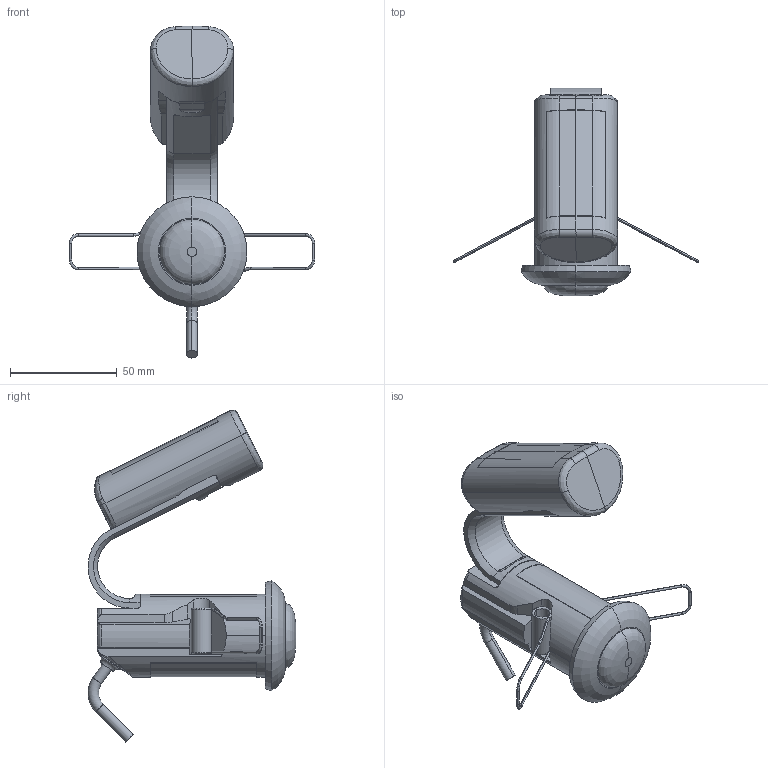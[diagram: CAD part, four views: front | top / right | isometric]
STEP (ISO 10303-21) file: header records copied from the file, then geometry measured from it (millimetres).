
FILE_DESCRIPTION((''),'2;1');
FILE_NAME('09814796Z','2022-02-02T10:12:41',('torbenh'),(''),'CREO PARAMETRIC BY PTC INC, 2021184','CREO PARAMETRIC BY PTC INC, 2021184','');
FILE_SCHEMA(('CONFIG_CONTROL_DESIGN'));
Length unit declared in the file: millimetre
Products named in the file (1): 09814796Z
Bounding box: 115.23 x 97.59 x 155.87 mm (x, y, z)
Volume: 183662.4 mm3; surface area: 31805.9 mm2
Topology: 1 solids, 1 shells, 233 faces, 620 edges, 390 vertices
Faces by surface type: plane 89, cylinder 76, torus 32, bspline 26, cone 6, extrusion 2, revolution 2
Entity records: 9618 total; most frequent: CARTESIAN_POINT 4019, ORIENTED_EDGE 1240, DIRECTION 1080, EDGE_CURVE 620, AXIS2_PLACEMENT_3D 407, VERTEX_POINT 390, VECTOR 264, LINE 262
